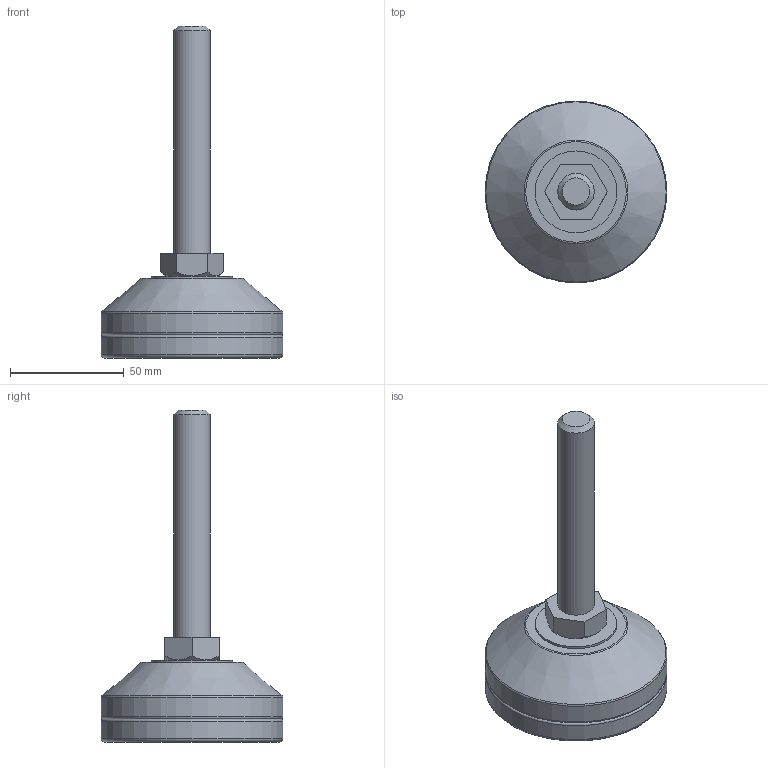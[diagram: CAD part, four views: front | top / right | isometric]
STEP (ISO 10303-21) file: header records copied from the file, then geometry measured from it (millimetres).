
FILE_DESCRIPTION(/* description */ (''),/* implementation_level */ '2;1');
FILE_NAME(/* name */ 'D:\조절자\FR\FR-M16-100L.stp',/* time_stamp */ '2016-03-14T14:38:41+09:00',/* author */ ('GS-DT-1-001'),/* organization */ (''),/* preprocessor_version */ 'ST-DEVELOPER v15.6',/* originating_system */ 'Autodesk Inventor LT ',/* authorisation */ '');
FILE_SCHEMA (('AUTOMOTIVE_DESIGN { 1 0 10303 214 3 1 1 }'));
Length unit declared in the file: millimetre
Products named in the file (1): FR-M16-100L
Bounding box: 80 x 80 x 146 mm (x, y, z)
Volume: 143051 mm3; surface area: 32445.5 mm2
Topology: 1 solids, 5 shells, 50 faces, 87 edges, 53 vertices
Faces by surface type: plane 22, cylinder 14, cone 8, torus 6
Full cylindrical faces by diameter (mm): 6.912 x1, 8 x1, 8.2 x1, 8.3 x1, 16 x2, 36 x1, 50 x1, 57 x1, 61 x1, 71 x1, 75 x1, 80 x2
Entity records: 1060 total; most frequent: DIRECTION 194, CARTESIAN_POINT 173, ORIENTED_EDGE 116, AXIS2_PLACEMENT_3D 91, EDGE_LOOP 88, EDGE_CURVE 58, VERTEX_POINT 52, FACE_OUTER_BOUND 50
